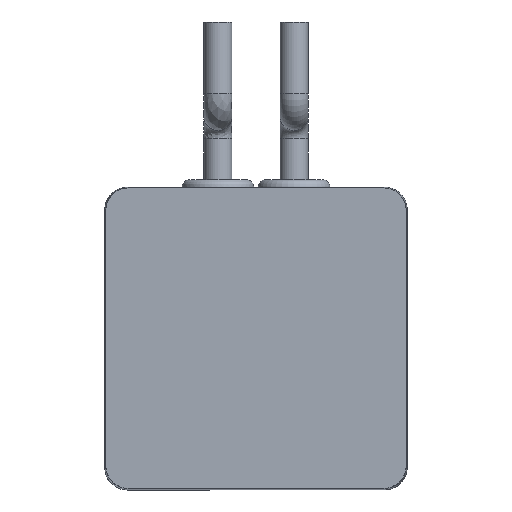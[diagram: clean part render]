
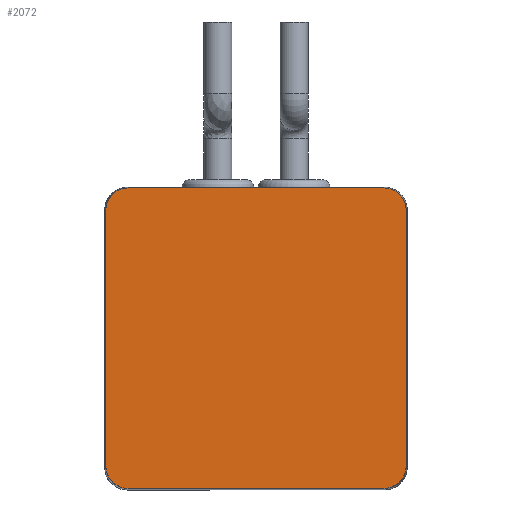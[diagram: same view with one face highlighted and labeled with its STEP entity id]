
A CAD part, top view. The second image highlights one B-rep face of the part: STEP entity #2072.
In plain terms, the highlighted planar face has unit normal (0, 0, 1).
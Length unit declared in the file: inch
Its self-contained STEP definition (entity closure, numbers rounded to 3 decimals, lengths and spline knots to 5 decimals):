
#1228=CARTESIAN_POINT('',(-0.425,1.675,4.195));
#1229=VERTEX_POINT('',#1228);
#1354=CARTESIAN_POINT('',(0.425,1.675,4.195));
#1355=VERTEX_POINT('',#1354);
#1356=CARTESIAN_POINT('',(-0.425,1.675,4.195));
#1357=DIRECTION('',(1.0,0.0,0.0));
#1358=VECTOR('',#1357,0.85);
#1359=LINE('',#1356,#1358);
#1360=EDGE_CURVE('',#1229,#1355,#1359,.T.);
#1554=CARTESIAN_POINT('',(-1.425,1.675,4.195));
#1555=VERTEX_POINT('',#1554);
#1562=CARTESIAN_POINT('',(-1.425,1.675,4.195));
#1563=DIRECTION('',(1.0,0.0,0.0));
#1564=VECTOR('',#1563,1.);
#1565=LINE('',#1562,#1564);
#1566=EDGE_CURVE('',#1555,#1229,#1565,.T.);
#1577=CARTESIAN_POINT('',(1.425,1.675,4.195));
#1578=VERTEX_POINT('',#1577);
#1579=CARTESIAN_POINT('',(0.425,1.675,4.195));
#1580=DIRECTION('',(1.0,0.0,0.0));
#1581=VECTOR('',#1580,1.);
#1582=LINE('',#1579,#1581);
#1583=EDGE_CURVE('',#1355,#1578,#1582,.T.);
#1634=CARTESIAN_POINT('',(1.675,1.425,4.195));
#1635=VERTEX_POINT('',#1634);
#1642=CARTESIAN_POINT('',(1.675,-1.425,4.195));
#1643=VERTEX_POINT('',#1642);
#1644=CARTESIAN_POINT('',(1.675,1.425,4.195));
#1645=DIRECTION('',(0.0,-1.0,0.0));
#1646=VECTOR('',#1645,2.85);
#1647=LINE('',#1644,#1646);
#1648=EDGE_CURVE('',#1635,#1643,#1647,.T.);
#1712=CARTESIAN_POINT('',(1.425,1.425,4.195));
#1713=DIRECTION('',(0.0,0.0,-1.));
#1714=DIRECTION('',(0.707,0.707,0.0));
#1715=AXIS2_PLACEMENT_3D('',#1712,#1713,#1714);
#1716=CIRCLE('',#1715,0.25);
#1717=EDGE_CURVE('',#1578,#1635,#1716,.T.);
#1801=CARTESIAN_POINT('',(-1.675,1.425,4.195));
#1802=VERTEX_POINT('',#1801);
#1809=CARTESIAN_POINT('',(-1.425,1.425,4.195));
#1810=DIRECTION('',(0.0,0.0,-1.));
#1811=DIRECTION('',(-0.707,0.707,0.0));
#1812=AXIS2_PLACEMENT_3D('',#1809,#1810,#1811);
#1813=CIRCLE('',#1812,0.25);
#1814=EDGE_CURVE('',#1802,#1555,#1813,.T.);
#1887=CARTESIAN_POINT('',(1.425,-1.675,4.195));
#1888=VERTEX_POINT('',#1887);
#1895=CARTESIAN_POINT('',(-1.425,-1.675,4.195));
#1896=VERTEX_POINT('',#1895);
#1897=CARTESIAN_POINT('',(1.425,-1.675,4.195));
#1898=DIRECTION('',(-1.0,0.0,0.0));
#1899=VECTOR('',#1898,2.85);
#1900=LINE('',#1897,#1899);
#1901=EDGE_CURVE('',#1888,#1896,#1900,.T.);
#1919=CARTESIAN_POINT('',(1.425,-1.425,4.195));
#1920=DIRECTION('',(0.0,0.0,-1.));
#1921=DIRECTION('',(0.707,-0.707,0.0));
#1922=AXIS2_PLACEMENT_3D('',#1919,#1920,#1921);
#1923=CIRCLE('',#1922,0.25);
#1924=EDGE_CURVE('',#1643,#1888,#1923,.T.);
#2031=CARTESIAN_POINT('',(-1.675,-1.425,4.195));
#2032=VERTEX_POINT('',#2031);
#2039=CARTESIAN_POINT('',(-1.675,-1.425,4.195));
#2040=DIRECTION('',(0.0,1.0,0.0));
#2041=VECTOR('',#2040,2.85);
#2042=LINE('',#2039,#2041);
#2043=EDGE_CURVE('',#2032,#1802,#2042,.T.);
#2049=CARTESIAN_POINT('',(0.,0.,4.195));
#2050=DIRECTION('',(0.0,0.0,1.0));
#2051=DIRECTION('',(1.0,0.0,0.0));
#2052=AXIS2_PLACEMENT_3D('',#2049,#2050,#2051);
#2053=PLANE('',#2052);
#2054=CARTESIAN_POINT('',(-1.425,-1.425,4.195));
#2055=DIRECTION('',(0.0,0.0,-1.));
#2056=DIRECTION('',(-0.707,-0.707,0.0));
#2057=AXIS2_PLACEMENT_3D('',#2054,#2055,#2056);
#2058=CIRCLE('',#2057,0.25);
#2059=EDGE_CURVE('',#1896,#2032,#2058,.T.);
#2060=ORIENTED_EDGE('',*,*,#2059,.F.);
#2061=ORIENTED_EDGE('',*,*,#1901,.F.);
#2062=ORIENTED_EDGE('',*,*,#1924,.F.);
#2063=ORIENTED_EDGE('',*,*,#1648,.F.);
#2064=ORIENTED_EDGE('',*,*,#1717,.F.);
#2065=ORIENTED_EDGE('',*,*,#1583,.F.);
#2066=ORIENTED_EDGE('',*,*,#1360,.F.);
#2067=ORIENTED_EDGE('',*,*,#1566,.F.);
#2068=ORIENTED_EDGE('',*,*,#1814,.F.);
#2069=ORIENTED_EDGE('',*,*,#2043,.F.);
#2070=EDGE_LOOP('',(#2060,#2061,#2062,#2063,#2064,#2065,#2066,#2067,#2068,#2069));
#2071=FACE_OUTER_BOUND('',#2070,.T.);
#2072=ADVANCED_FACE('',(#2071),#2053,.T.);
